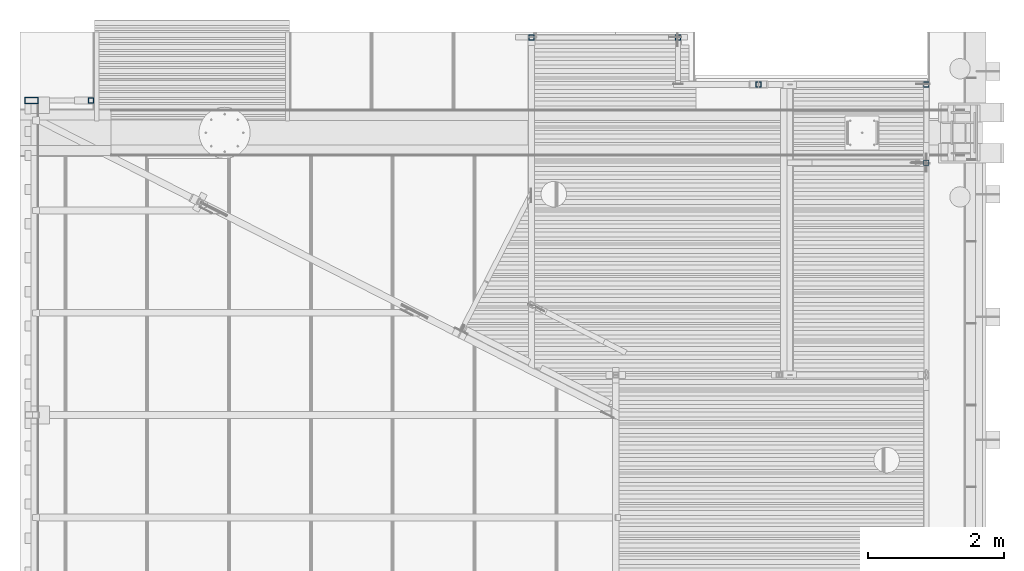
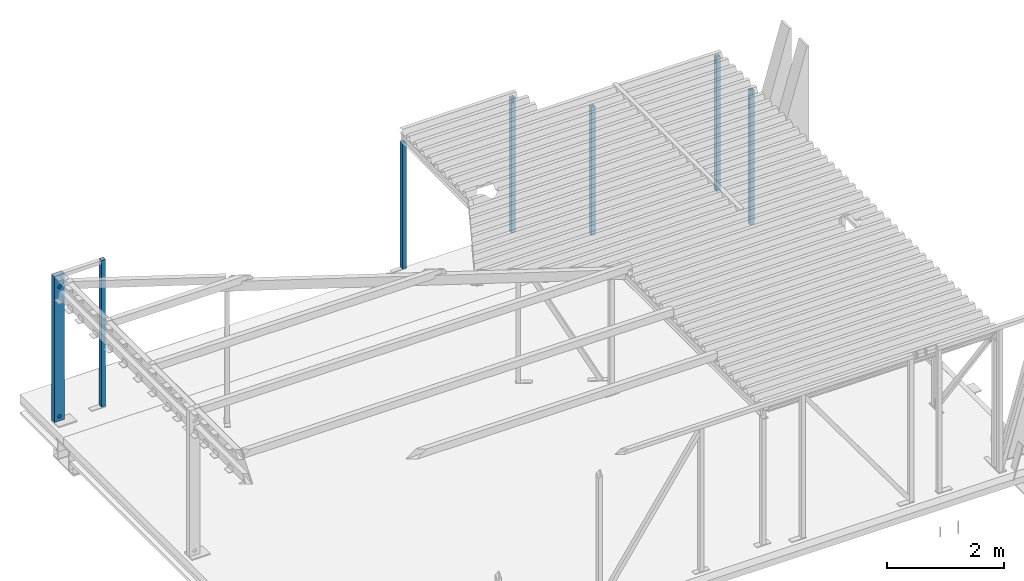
# One storey, part 3 of 30: 7 columns.
"""IFC2X3 building model written with IfcOpenShell, lengths in millimetres."""

from ifc_helpers import new_model, entity, si_unit, converted_unit, derived_unit, direction, frame, origin_with_axes, place, context, subcontext, project, spatial, faceted_brep, material, type_object, element, save


model = new_model("IFC2X3")

# Units and contexts
model_context = context("Model", 3, precision=0.01, world=frame((0.0, 4.29681676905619e-09, 0.0)), true_north=direction((4.01073788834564e-13, 1.0)))
plan_context = context("Plan", 3, precision=0.01, world=frame((0.0, 4.29681676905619e-09, 0.0)), true_north=direction((4.01073788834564e-13, 1.0)))
body_context = subcontext(model_context, "Body", "Model", "MODEL_VIEW")
ifc_project = project(units=[converted_unit("PLANEANGLEUNIT", "DEGREE", entity("IfcPositiveLengthMeasure", 0.0174532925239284), si_unit("PLANEANGLEUNIT", "RADIAN"), dimensions=[0, 0, 0, 0, 0, 0, 0]), si_unit("AREAUNIT", "SQUARE_METRE"), si_unit("LENGTHUNIT", "METRE", prefix="MILLI"), si_unit("MASSUNIT", "GRAM", prefix="KILO"), si_unit("POWERUNIT", "WATT"), si_unit("PRESSUREUNIT", "PASCAL"), si_unit("FORCEUNIT", "NEWTON", prefix="KILO"), si_unit("ELECTRICVOLTAGEUNIT", "VOLT"), si_unit("ELECTRICCURRENTUNIT", "AMPERE"), si_unit("THERMODYNAMICTEMPERATUREUNIT", "DEGREE_CELSIUS"), si_unit("TIMEUNIT", "SECOND"), si_unit("VOLUMEUNIT", "CUBIC_METRE"), derived_unit("LINEARVELOCITYUNIT", [(si_unit("LENGTHUNIT", "METRE"), 1), (si_unit("TIMEUNIT", "SECOND"), -1)]), derived_unit("VOLUMETRICFLOWRATEUNIT", [(si_unit("VOLUMEUNIT", "CUBIC_METRE"), 1), (si_unit("TIMEUNIT", "SECOND"), -1)]), derived_unit("THERMALTRANSMITTANCEUNIT", [(si_unit("POWERUNIT", "WATT"), 1), (si_unit("THERMODYNAMICTEMPERATUREUNIT", "KELVIN"), -1), (si_unit("AREAUNIT", "SQUARE_METRE"), -1)]), derived_unit("SOUNDPRESSUREUNIT", [(si_unit("PRESSUREUNIT", "PASCAL"), 1)])], contexts=[model_context, plan_context])

# Site, building, storey
site_placement = place(None, frame((0.0, -4.29681676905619e-09, 0.0), z_axis=(0.0, 0.0, 1.0), x_axis=(1.0, 0.0, 0.0)))
site = spatial("IfcSite", under=ifc_project, at=site_placement, Name="Gardermoen", CompositionType="ELEMENT")
building_placement = place(site_placement, frame((0.0, 4.29681676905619e-09, 0.0), z_axis=(0.0, 0.0, 1.0), x_axis=(1.0, 0.0, 0.0)))
building = spatial("IfcBuilding", under=site, at=building_placement, Name="TI", CompositionType="ELEMENT")
storey_placement = place(building_placement, origin_with_axes())
storey = spatial("IfcBuildingStorey", under=building, at=storey_placement, Name="F", CompositionType="ELEMENT", Elevation=0.0)

# Columns
ifc_material_1 = material(Name="STEEL/S355")
column_type_1 = type_object("IfcColumnType", Name="RHS200*100*8", PredefinedType="NOTDEFINED")
column_1_placement = place(storey_placement, frame((598169.997607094, 698474.012606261, 210855.0), z_axis=(1.0, 0.0, 0.0), x_axis=(0.0, 0.0, 1.0)))
element("IfcColumn", 1, at=column_1_placement, inside=storey, type_object=column_type_1, material=ifc_material_1, Name="STÅLSØYLE", ObjectType="RHS200*100*8", context=body_context, shape_type="Brep", body=[
    faceted_brep([(132.336470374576, 42.0034060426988, -13.3939197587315), (132.337155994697, 50.0, -13.3902314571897), (124.750109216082, 50.0, -24.7450498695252), (124.749424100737, 42.0092937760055, -24.7487354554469), (113.395291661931, 50.0, -32.3320969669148), (113.394606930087, 42.0137667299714, -32.3357804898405), (100.00137137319, 50.0, -34.9963136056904), (100.000686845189, 42.0161439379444, -34.9999960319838), (86.6074512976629, 50.0, -32.3320969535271), (86.6067667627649, 42.0160634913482, -32.3357794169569), (75.252634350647, 50.0, -24.7450498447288), (75.2519495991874, 42.013537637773, -24.7487334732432), (67.6655884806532, 50.0, -13.3902314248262), (67.6649033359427, 42.0089509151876, -13.3939171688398), (65.0013726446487, 50.0, 0.00369013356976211), (65.0006869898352, 42.0030016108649, 1.64553057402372e-06), (67.6655895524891, 50.0, 13.3976116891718), (67.6649033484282, 41.9965954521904, 13.3939202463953), (75.2526363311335, 50.0, 24.7524301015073), (75.2519496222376, 41.9907077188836, 24.7487359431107), (86.6074538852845, 50.0, 32.3394771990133), (86.6067667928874, 41.9862347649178, 32.3357809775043), (100.001374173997, 50.0, 35.0036938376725), (100.000686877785, 41.9838575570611, 34.999996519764), (113.395294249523, 50.0, 32.3394771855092), (113.39460696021, 41.983938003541, 32.3357799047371), (124.750111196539, 50.0, 24.7524300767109), (124.749424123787, 41.9864638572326, 24.748733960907), (132.337157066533, 50.0, 13.3976116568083), (132.336470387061, 41.9910505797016, 13.3939176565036), (135.001372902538, 50.0, 0.00369009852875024), (135.000686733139, 41.9969998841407, -1.15775037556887e-06), (0.0, -50.0, -100.0), (0.0, 50.0, -100.0), (3032.0006866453, 50.0000000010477, -99.9999999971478), (3032.0006866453, -49.9999999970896, -99.9999999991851), (-1.39791518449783e-06, -49.9999999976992, 99.999992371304), (3032.0006866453, -50.0000000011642, 99.9999999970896), (-1.39698386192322e-06, 50.0000000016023, 99.999992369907), (3032.0006866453, 49.9999999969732, 99.9999999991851), (0.0, 42.0, 92.0), (0.0, -42.0, 92.0), (0.0, -42.0, -92.0), (0.0, 42.0, -92.0), (3032.0006866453, 41.9999999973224, 91.9999999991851), (3032.0006866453, -42.0000000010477, 91.9999999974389), (3032.0006866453, -41.9999999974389, -91.9999999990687), (3032.0006866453, 42.0000000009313, -91.9999999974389), (2819.74942410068, 42.0092937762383, -24.7487354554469), (2808.39460693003, 42.0137667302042, -32.3357804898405), (2795.00068684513, 42.0161439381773, -34.9999960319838), (2781.60676676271, 42.016063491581, -32.3357794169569), (2770.25194959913, 42.0135376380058, -24.7487334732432), (2762.66490333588, 42.0089509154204, -13.3939171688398), (2760.00068698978, 42.0030016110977, 1.64553057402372e-06), (2762.66490334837, 41.9965954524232, 13.3939202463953), (2770.25194962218, 41.9907077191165, 24.7487359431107), (2781.60676679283, 41.9862347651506, 32.3357809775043), (2795.00068687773, 41.983857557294, 34.999996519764), (2808.39460696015, 41.9839380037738, 32.3357799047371), (2819.74942412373, 41.9864638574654, 24.748733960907), (2827.336470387, 41.9910505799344, 13.3939176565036), (2830.00068673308, 41.9969998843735, -1.15775037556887e-06), (2827.33647037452, 42.0034060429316, -13.3939197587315), (2819.75011119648, 50.0, 24.7524300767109), (2827.33715706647, 50.0, 13.3976116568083), (2808.39529424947, 50.0, 32.3394771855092), (2795.00137417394, 50.0, 35.0036938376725), (2781.60745388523, 50.0, 32.3394771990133), (2770.25263633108, 50.0, 24.7524301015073), (2762.66558955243, 50.0, 13.3976116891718), (2760.00137264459, 50.0, 0.00369013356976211), (2762.6655884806, 50.0, -13.3902314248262), (2770.25263435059, 50.0, -24.7450498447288), (2781.6074512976, 50.0, -32.3320969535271), (2795.00137137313, 50.0, -34.9963136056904), (2808.39529166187, 50.0, -32.3320969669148), (2819.75010921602, 50.0, -24.7450498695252), (2827.33715599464, 50.0, -13.3902314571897), (2830.00137290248, 50.0, 0.00369009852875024)], [[[0, 1, 2, 3]], [[3, 2, 4, 5]], [[5, 4, 6, 7]], [[7, 6, 8, 9]], [[9, 8, 10, 11]], [[11, 10, 12, 13]], [[13, 12, 14, 15]], [[15, 14, 16, 17]], [[17, 16, 18, 19]], [[19, 18, 20, 21]], [[21, 20, 22, 23]], [[23, 22, 24, 25]], [[25, 24, 26, 27]], [[27, 26, 28, 29]], [[29, 28, 30, 31]], [[31, 30, 1, 0]], [[32, 33, 34, 35]], [[36, 32, 35, 37]], [[38, 36, 37, 39]], [[32, 36, 38, 33], [40, 41, 42, 43]], [[41, 40, 44, 45]], [[42, 41, 45, 46]], [[43, 42, 46, 47]], [[37, 35, 34, 39], [45, 44, 47, 46]], [[40, 43, 47, 44], [3, 5, 7, 9, 11, 13, 15, 17, 19, 21, 23, 25, 27, 29, 31, 0], [48, 49, 50, 51, 52, 53, 54, 55, 56, 57, 58, 59, 60, 61, 62, 63]], [[60, 64, 65, 61]], [[59, 66, 64, 60]], [[58, 67, 66, 59]], [[57, 68, 67, 58]], [[56, 69, 68, 57]], [[55, 70, 69, 56]], [[54, 71, 70, 55]], [[53, 72, 71, 54]], [[52, 73, 72, 53]], [[51, 74, 73, 52]], [[50, 75, 74, 51]], [[49, 76, 75, 50]], [[48, 77, 76, 49]], [[63, 78, 77, 48]], [[62, 79, 78, 63]], [[61, 65, 79, 62]], [[33, 38, 39, 34], [26, 24, 22, 20, 18, 16, 14, 12, 10, 8, 6, 4, 2, 1, 30, 28], [64, 66, 67, 68, 69, 70, 71, 72, 73, 74, 75, 76, 77, 78, 79, 65]]]),
])
ifc_material_2 = material(Name="STEEL/S355J2H")
column_type_2 = type_object("IfcColumnType", Name="RHS80*80*6.3", PredefinedType="NOTDEFINED")
column_2_placement = place(storey_placement, frame((607650.012290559, 699400.506707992, 210895.0), z_axis=(0.0, 1.0, 0.0), x_axis=(0.0, 0.0, 1.0)))
element("IfcColumn", 2, at=column_2_placement, inside=storey, type_object=column_type_2, material=ifc_material_2, Name="STÅLSØYLE", ObjectType="RHS80*80*6.3", context=body_context, shape_type="Brep", body=[
    faceted_brep([(2788.49991158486, 33.6999998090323, 2.34126699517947), (2788.49991158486, 40.0, 2.34127392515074), (2681.49991158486, 40.0, 2.34127392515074), (2681.49991158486, 33.6999998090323, 2.34126699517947), (2681.49991158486, 40.0, 12.3412739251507), (2681.49991158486, 33.6999998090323, 12.3412669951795), (2788.49991158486, 40.0, 12.3412739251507), (2788.49991158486, 33.6999998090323, 12.3412669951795), (0.0, 33.6999998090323, 33.6999998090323), (0.0, 33.6999998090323, -33.6999998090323), (2800.0, 33.6999998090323, -33.6999998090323), (2800.0, 33.6999998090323, 33.6999998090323), (0.0, -33.6999998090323, 33.6999998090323), (2800.0, -33.6999998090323, 33.6999998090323), (2681.49980926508, -2.35971914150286, 33.6999998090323), (2681.49980926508, -12.3597191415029, 33.6999998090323), (2788.49980926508, -12.3597191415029, 33.6999998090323), (2788.49980926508, -2.35971914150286, 33.6999998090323), (2788.49980926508, -2.35971914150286, 40.0), (2788.49980926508, -12.3597191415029, 40.0), (2681.49980926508, -2.35971914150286, 40.0), (2681.49980926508, -12.3597191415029, 40.0), (0.0, 40.0, 40.0), (0.0, -40.0, 40.0), (2800.0, -40.0, 40.0), (2800.0, 40.0, 40.0), (0.0, -40.0, -40.0), (2800.0, -40.0, -40.0), (2681.49991158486, -40.0, 2.3411878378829), (2681.49991158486, -40.0, 12.3411878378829), (2788.49991158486, -40.0, 12.3411878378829), (2788.49991158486, -40.0, 2.3411878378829), (2681.49991158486, -33.6999998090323, 2.34119476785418), (2681.49991158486, -33.6999998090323, 12.3411947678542), (2788.49991158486, -33.6999998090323, 2.34119476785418), (2788.49991158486, -33.6999998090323, 12.3411947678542), (0.0, -33.6999998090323, -33.6999998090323), (2800.0, -33.6999998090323, -33.6999998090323), (0.0, 40.0, -40.0), (2800.0, 40.0, -40.0), (2681.49980926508, -2.35971914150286, -40.0), (2681.49980926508, -12.3597191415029, -40.0), (2788.49980926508, -12.3597191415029, -40.0), (2788.49980926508, -2.35971914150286, -40.0), (2788.49980926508, -2.35971914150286, -33.6999998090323), (2788.49980926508, -12.3597191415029, -33.6999998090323), (2681.49980926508, -2.35971914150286, -33.6999998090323), (2681.49980926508, -12.3597191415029, -33.6999998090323)], [[[0, 1, 2, 3]], [[3, 2, 4, 5]], [[5, 4, 6, 7]], [[7, 6, 1, 0]], [[8, 9, 10, 11], [3, 5, 7, 0]], [[12, 8, 11, 13], [14, 15, 16, 17]], [[18, 17, 16, 19]], [[20, 14, 17, 18]], [[21, 15, 14, 20]], [[19, 16, 15, 21]], [[22, 23, 24, 25], [20, 18, 19, 21]], [[23, 26, 27, 24], [28, 29, 30, 31]], [[28, 32, 33, 29]], [[31, 34, 32, 28]], [[30, 35, 34, 31]], [[29, 33, 35, 30]], [[36, 12, 13, 37], [32, 34, 35, 33]], [[26, 23, 22, 38], [8, 12, 36, 9]], [[26, 38, 39, 27], [40, 41, 42, 43]], [[44, 43, 42, 45]], [[46, 40, 43, 44]], [[47, 41, 40, 46]], [[45, 42, 41, 47]], [[9, 36, 37, 10], [46, 44, 45, 47]], [[24, 27, 39, 25], [13, 11, 10, 37]], [[38, 22, 25, 39], [2, 1, 6, 4]]]),
])
column_3_placement = place(storey_placement, frame((608828.652290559, 698709.996707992, 210845.0), z_axis=(0.0, 1.0, 0.0), x_axis=(0.0, 0.0, 1.0)))
element("IfcColumn", 3, at=column_3_placement, inside=storey, type_object=column_type_2, material=ifc_material_2, Name="STÅLSØYLE", ObjectType="RHS80*80*6.3", context=body_context, shape_type="Brep", body=[
    faceted_brep([(0.0, 33.6999998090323, -33.6999998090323), (0.0, -33.6999998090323, -33.6999998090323), (2666.99988555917, -33.6999998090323, -33.6999998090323), (2666.99988555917, 33.6999998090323, -33.6999998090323), (0.0, -33.6999998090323, 33.6999998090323), (2666.99988555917, -33.6999998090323, 33.6999998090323), (0.0, 33.6999998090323, 33.6999998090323), (2666.99988555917, 33.6999998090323, 33.6999998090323), (0.0, 40.0, -40.0), (0.0, 40.0, 40.0), (2666.99988555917, 40.0, 40.0), (2666.99988555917, 40.0, -40.0), (0.0, -40.0, 40.0), (2666.99988555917, -40.0, 40.0), (0.0, -40.0, -40.0), (2666.99988555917, -40.0, -40.0)], [[[0, 1, 2, 3]], [[1, 4, 5, 2]], [[4, 6, 7, 5]], [[6, 0, 3, 7]], [[8, 9, 10, 11]], [[9, 12, 13, 10]], [[12, 14, 15, 13]], [[14, 8, 11, 15]], [[13, 15, 11, 10], [5, 7, 3, 2]], [[14, 12, 9, 8], [6, 4, 1, 0]]]),
])
column_4_placement = place(storey_placement, frame((605502.912290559, 699400.496707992, 210895.0), z_axis=(0.0, 1.0, 0.0), x_axis=(0.0, 0.0, 1.0)))
element("IfcColumn", 4, at=column_4_placement, inside=storey, type_object=column_type_2, material=ifc_material_2, Name="STÅLSØYLE", ObjectType="RHS80*80*6.3", context=body_context, shape_type="Brep", body=[
    faceted_brep([(0.0, 33.6999998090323, -33.6999998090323), (0.0, -33.6999998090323, -33.6999998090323), (2616.99970112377, -33.6999998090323, -33.6999998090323), (2616.99970112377, 33.6999998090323, -33.6999998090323), (0.0, -33.6999998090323, 33.6999998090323), (2616.9996984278, -33.6999998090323, 33.6999998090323), (0.0, 33.6999998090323, 33.6999998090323), (2616.9996984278, 33.6999998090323, 33.6999998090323), (0.0, 40.0, -40.0), (0.0, 40.0, 40.0), (2616.99969817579, 40.0, 40.0), (2616.99970137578, 40.0, -40.0), (0.0, -40.0, 40.0), (2616.99969817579, -40.0, 40.0), (0.0, -40.0, -40.0), (2616.99970137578, -40.0, -40.0)], [[[0, 1, 2, 3]], [[1, 4, 5, 2]], [[4, 6, 7, 5]], [[6, 0, 3, 7]], [[8, 9, 10, 11]], [[9, 12, 13, 10]], [[12, 14, 15, 13]], [[14, 8, 11, 15]], [[13, 15, 11, 10], [5, 7, 3, 2]], [[14, 12, 9, 8], [6, 4, 1, 0]]]),
])
column_5_placement = place(storey_placement, frame((611289.642290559, 698710.066707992, 210895.0), z_axis=(0.0, 1.0, 0.0), x_axis=(0.0, 0.0, 1.0)))
element("IfcColumn", 5, at=column_5_placement, inside=storey, type_object=column_type_2, material=ifc_material_2, Name="STÅLSØYLE", ObjectType="RHS80*80*6.3", context=body_context, shape_type="Brep", body=[
    faceted_brep([(2786.99988555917, 33.6999998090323, 0.587425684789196), (2786.99988555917, 40.0, 0.587417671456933), (2642.99988555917, 40.0, 0.587417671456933), (2642.99988555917, 33.6999998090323, 0.587425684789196), (2642.99988555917, 40.0, 12.5874176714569), (2642.99988555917, 33.6999998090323, 12.5874256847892), (2786.99988555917, 40.0, 12.5874176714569), (2786.99988555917, 33.6999998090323, 12.5874256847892), (0.0, 40.0, 40.0), (0.0, -40.0, 40.0), (2800.0, -40.0, 40.0), (2800.0, 40.0, 40.0), (0.0, 33.6999998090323, 33.6999998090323), (0.0, 33.6999998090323, -33.6999998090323), (2800.0, 33.6999998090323, -33.6999998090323), (2800.0, 33.6999998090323, 33.6999998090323), (0.0, -33.6999998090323, 33.6999998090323), (2800.0, -33.6999998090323, 33.6999998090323), (0.0, -40.0, -40.0), (0.0, 40.0, -40.0), (0.0, -33.6999998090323, -33.6999998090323), (2800.0, 40.0, -40.0), (2800.0, -40.0, -40.0), (2642.99988555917, -40.0, 0.587519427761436), (2642.99988555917, -40.0, 12.5875194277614), (2786.99988555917, -40.0, 12.5875194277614), (2786.99988555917, -40.0, 0.587519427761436), (2642.99988555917, -33.6999998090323, 0.587511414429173), (2642.99988555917, -33.6999998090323, 12.5875114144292), (2786.99988555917, -33.6999998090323, 0.587511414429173), (2786.99988555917, -33.6999998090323, 12.5875114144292), (2800.0, -33.6999998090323, -33.6999998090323)], [[[0, 1, 2, 3]], [[3, 2, 4, 5]], [[5, 4, 6, 7]], [[7, 6, 1, 0]], [[8, 9, 10, 11]], [[12, 13, 14, 15], [3, 5, 7, 0]], [[16, 12, 15, 17]], [[18, 9, 8, 19], [12, 16, 20, 13]], [[18, 19, 21, 22]], [[9, 18, 22, 10], [23, 24, 25, 26]], [[23, 27, 28, 24]], [[26, 29, 27, 23]], [[25, 30, 29, 26]], [[24, 28, 30, 25]], [[20, 16, 17, 31], [27, 29, 30, 28]], [[13, 20, 31, 14]], [[10, 22, 21, 11], [17, 15, 14, 31]], [[19, 8, 11, 21], [2, 1, 6, 4]]]),
])
column_6_placement = place(storey_placement, frame((611289.642290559, 697561.018773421, 210895.0), z_axis=(0.0, 1.0, 0.0), x_axis=(0.0, 0.0, 1.0)))
element("IfcColumn", 6, at=column_6_placement, inside=storey, type_object=column_type_2, material=ifc_material_2, Name="STÅLSØYLE", ObjectType="RHS80*80*6.3", context=body_context, shape_type="Brep", body=[
    faceted_brep([(2670.84790466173, -40.0, -15.9950951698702), (2670.84790433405, -33.6999998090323, -15.9950871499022), (2426.64414939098, -33.6999998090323, -15.9952138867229), (2426.64414824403, -40.0, -15.9952219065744), (2426.64414316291, -33.6999998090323, -3.99521388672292), (2426.64414201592, -40.0, -3.99522190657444), (2670.84789810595, -33.6999998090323, -3.99508714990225), (2670.84789843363, -40.0, -3.99509516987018), (2670.84790082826, 33.6999998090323, -15.9950013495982), (2670.84790050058, 40.0, -15.9949933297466), (2426.64416280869, 40.0, -15.9951200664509), (2426.64416166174, 33.6999998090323, -15.9951280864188), (2426.64415658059, 40.0, -3.99512006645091), (2426.64415543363, 33.6999998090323, -3.99512808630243), (2670.84789427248, 40.0, -3.99499332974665), (2670.84789460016, 33.6999998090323, -3.99500134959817), (0.0, 33.6999998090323, 33.6999998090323), (0.0, 33.6999998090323, -33.6999998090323), (2800.0, 33.6999998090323, -33.6999998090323), (2800.0, 33.6999998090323, 33.6999998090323), (0.0, -40.0, 40.0), (0.0, -40.0, -40.0), (2800.0, -40.0, -40.0), (2800.0, -40.0, 40.0), (0.0, 40.0, 40.0), (2800.0, 40.0, 40.0), (2681.49989137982, 4.99812737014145, 40.0), (2788.49989450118, 4.99812737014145, 40.0), (2788.49989450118, -5.00187262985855, 40.0), (2681.49989137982, -5.00187262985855, 40.0), (2681.49989137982, 4.99812846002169, 33.6999998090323), (2788.49989450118, 4.99812846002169, 33.6999998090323), (2681.49989137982, -5.00187153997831, 33.6999998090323), (2788.49989450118, -5.00187153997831, 33.6999998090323), (0.0, -33.6999998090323, 33.6999998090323), (2800.0, -33.6999998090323, 33.6999998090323), (0.0, -33.6999998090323, -33.6999998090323), (2800.0, -33.6999998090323, -33.6999998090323), (0.0, 40.0, -40.0), (2800.0, 40.0, -40.0), (2681.49989137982, 4.99814120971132, -40.0), (2681.49989137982, -5.00185879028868, -40.0), (2788.49989450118, -5.00185879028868, -40.0), (2788.49989450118, 4.99814120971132, -40.0), (2788.49989450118, 4.99814011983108, -33.6999998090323), (2788.49989450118, -5.00185988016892, -33.6999998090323), (2681.49989137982, 4.99814011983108, -33.6999998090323), (2681.49989137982, -5.00185988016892, -33.6999998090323)], [[[0, 1, 2, 3]], [[3, 2, 4, 5]], [[5, 4, 6, 7]], [[7, 6, 1, 0]], [[8, 9, 10, 11]], [[11, 10, 12, 13]], [[13, 12, 14, 15]], [[15, 14, 9, 8]], [[16, 17, 18, 19], [11, 13, 15, 8]], [[20, 21, 22, 23], [3, 5, 7, 0]], [[24, 20, 23, 25], [26, 27, 28, 29]], [[26, 30, 31, 27]], [[29, 32, 30, 26]], [[28, 33, 32, 29]], [[27, 31, 33, 28]], [[34, 16, 19, 35], [30, 32, 33, 31]], [[36, 34, 35, 37], [2, 1, 6, 4]], [[21, 20, 24, 38], [16, 34, 36, 17]], [[21, 38, 39, 22], [40, 41, 42, 43]], [[44, 43, 42, 45]], [[46, 40, 43, 44]], [[47, 41, 40, 46]], [[45, 42, 41, 47]], [[17, 36, 37, 18], [46, 44, 45, 47]], [[23, 22, 39, 25], [35, 19, 18, 37]], [[38, 24, 25, 39], [10, 9, 14, 12]]]),
])
column_7_placement = place(storey_placement, frame((599040.007607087, 698474.002606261, 210845.0), z_axis=(1.0, 0.0, 0.0), x_axis=(0.0, 0.0, 1.0)))
element("IfcColumn", 7, at=column_7_placement, inside=storey, type_object=column_type_2, material=ifc_material_1, Name="STÅLSØYLE", ObjectType="RHS80*80*6.3", context=body_context, shape_type="Brep", body=[
    faceted_brep([(0.0, 33.6999998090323, -33.6999998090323), (0.0, -33.6999998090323, -33.6999998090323), (3050.0006866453, -33.6999998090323, -33.6999998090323), (3050.0006866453, 33.6999998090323, -33.6999998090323), (0.0, -33.6999998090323, 33.6999998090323), (3050.0006866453, -33.6999998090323, 33.6999998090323), (0.0, 33.6999998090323, 33.6999998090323), (3050.0006866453, 33.6999998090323, 33.6999998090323), (0.0, 40.0, -40.0), (0.0, 40.0, 40.0), (3050.0006866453, 40.0, 40.0), (3050.0006866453, 40.0, -40.0), (0.0, -40.0, 40.0), (3050.0006866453, -40.0, 40.0), (0.0, -40.0, -40.0), (3050.0006866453, -40.0, -40.0)], [[[0, 1, 2, 3]], [[1, 4, 5, 2]], [[4, 6, 7, 5]], [[6, 0, 3, 7]], [[8, 9, 10, 11]], [[9, 12, 13, 10]], [[12, 14, 15, 13]], [[14, 8, 11, 15]], [[13, 15, 11, 10], [5, 7, 3, 2]], [[14, 12, 9, 8], [6, 4, 1, 0]]]),
])

save(model, "model.ifc")
